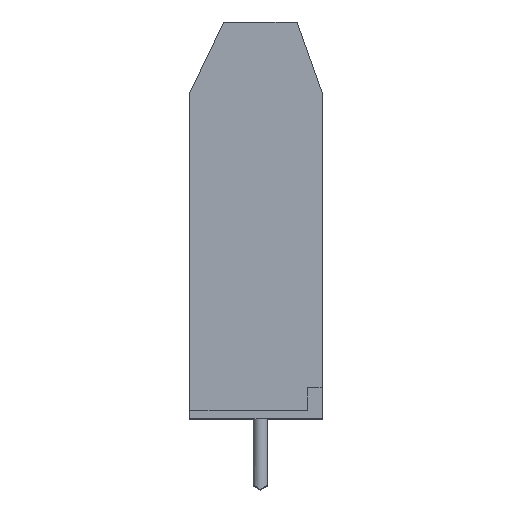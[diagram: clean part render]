
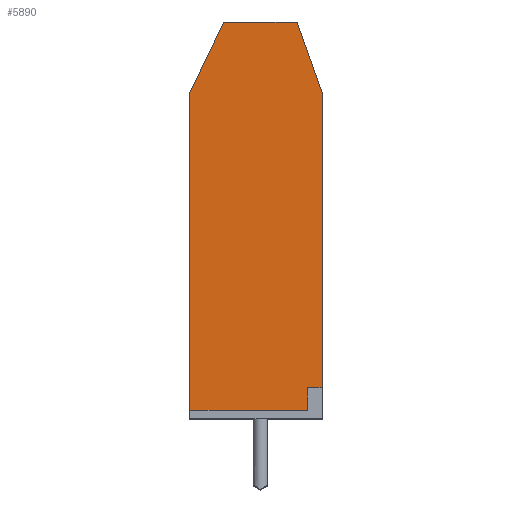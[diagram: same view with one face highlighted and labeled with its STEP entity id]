
A CAD part, top view. The second image highlights one B-rep face of the part: STEP entity #5890.
In plain terms, the highlighted planar face has unit normal (0, 0, 1).
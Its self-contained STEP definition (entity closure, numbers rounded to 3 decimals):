
#508 = EDGE_CURVE ( 'NONE', #10244, #19095, #15183, .T. ) ;
#845 = CARTESIAN_POINT ( 'NONE',  ( 0., 14.3, 0. ) ) ;
#1621 = DIRECTION ( 'NONE',  ( 1., 0., 0. ) ) ;
#2085 = ORIENTED_EDGE ( 'NONE', *, *, #26531, .F. ) ;
#2329 = ORIENTED_EDGE ( 'NONE', *, *, #13244, .T. ) ;
#2501 = VECTOR ( 'NONE', #8156, 1000. ) ;
#2740 = CARTESIAN_POINT ( 'NONE',  ( 0., 22.2, 0. ) ) ;
#2743 = VECTOR ( 'NONE', #13218, 1000. ) ;
#3608 = VECTOR ( 'NONE', #24115, 1000. ) ;
#3643 = LINE ( 'NONE', #5677, #2501 ) ;
#4064 = EDGE_CURVE ( 'NONE', #28738, #29650, #28254, .T. ) ;
#5677 = CARTESIAN_POINT ( 'NONE',  ( -9., 22.2, 0. ) ) ;
#5890 = ADVANCED_FACE ( 'NONE', ( #26576 ), #8109, .F. ) ;
#8109 = PLANE ( 'NONE',  #11046 ) ;
#8156 = DIRECTION ( 'NONE',  ( -0.432, -0.902, 0. ) ) ;
#8413 = ORIENTED_EDGE ( 'NONE', *, *, #508, .T. ) ;
#8508 = ORIENTED_EDGE ( 'NONE', *, *, #20356, .T. ) ;
#9116 = CARTESIAN_POINT ( 'NONE',  ( -9., 0.567, 0. ) ) ;
#9536 = CARTESIAN_POINT ( 'NONE',  ( -9., 14.3, 0. ) ) ;
#9847 = EDGE_CURVE ( 'NONE', #11814, #12744, #31291, .T. ) ;
#9988 = EDGE_LOOP ( 'NONE', ( #2085, #8508, #10476, #2329, #8413, #23670, #22947, #22458 ) ) ;
#10244 = VERTEX_POINT ( 'NONE', #21659 ) ;
#10476 = ORIENTED_EDGE ( 'NONE', *, *, #9847, .T. ) ;
#11046 = AXIS2_PLACEMENT_3D ( 'NONE', #845, #27381, #20046 ) ;
#11785 = VECTOR ( 'NONE', #14571, 1000. ) ;
#11814 = VERTEX_POINT ( 'NONE', #13916 ) ;
#12392 = CARTESIAN_POINT ( 'NONE',  ( -1.7, 27., 0. ) ) ;
#12744 = VERTEX_POINT ( 'NONE', #30028 ) ;
#13218 = DIRECTION ( 'NONE',  ( 1., 0., 0. ) ) ;
#13244 = EDGE_CURVE ( 'NONE', #12744, #10244, #23222, .T. ) ;
#13422 = CARTESIAN_POINT ( 'NONE',  ( 0., 2.1, 0. ) ) ;
#13916 = CARTESIAN_POINT ( 'NONE',  ( 0., 2.1, 0. ) ) ;
#14228 = VECTOR ( 'NONE', #24126, 1000. ) ;
#14571 = DIRECTION ( 'NONE',  ( 0., -1., 0. ) ) ;
#14936 = DIRECTION ( 'NONE',  ( -0.334, 0.943, 0. ) ) ;
#15183 = LINE ( 'NONE', #27994, #19345 ) ;
#15641 = LINE ( 'NONE', #13422, #2743 ) ;
#16491 = CARTESIAN_POINT ( 'NONE',  ( -9., 22.2, 0. ) ) ;
#16999 = CARTESIAN_POINT ( 'NONE',  ( -0.989, 2.1, 0. ) ) ;
#17629 = EDGE_CURVE ( 'NONE', #19095, #28738, #3643, .T. ) ;
#18224 = LINE ( 'NONE', #16999, #11785 ) ;
#18596 = CARTESIAN_POINT ( 'NONE',  ( 0., 0.567, 0. ) ) ;
#19095 = VERTEX_POINT ( 'NONE', #29155 ) ;
#19165 = EDGE_CURVE ( 'NONE', #29650, #26939, #19869, .T. ) ;
#19345 = VECTOR ( 'NONE', #20956, 1000. ) ;
#19492 = VERTEX_POINT ( 'NONE', #22164 ) ;
#19869 = LINE ( 'NONE', #18596, #25555 ) ;
#20046 = DIRECTION ( 'NONE',  ( -1., 0., 0. ) ) ;
#20356 = EDGE_CURVE ( 'NONE', #19492, #11814, #15641, .T. ) ;
#20956 = DIRECTION ( 'NONE',  ( -1., 0., 0. ) ) ;
#21659 = CARTESIAN_POINT ( 'NONE',  ( -1.7, 27., 0. ) ) ;
#22164 = CARTESIAN_POINT ( 'NONE',  ( -0.989, 2.1, 0. ) ) ;
#22458 = ORIENTED_EDGE ( 'NONE', *, *, #19165, .T. ) ;
#22947 = ORIENTED_EDGE ( 'NONE', *, *, #4064, .T. ) ;
#23222 = LINE ( 'NONE', #12392, #25519 ) ;
#23670 = ORIENTED_EDGE ( 'NONE', *, *, #17629, .T. ) ;
#24115 = DIRECTION ( 'NONE',  ( 0., 1., 0. ) ) ;
#24126 = DIRECTION ( 'NONE',  ( 0., -1., 0. ) ) ;
#25519 = VECTOR ( 'NONE', #14936, 1000. ) ;
#25555 = VECTOR ( 'NONE', #1621, 1000. ) ;
#26516 = CARTESIAN_POINT ( 'NONE',  ( -0.989, 0.567, 0. ) ) ;
#26531 = EDGE_CURVE ( 'NONE', #19492, #26939, #18224, .T. ) ;
#26576 = FACE_OUTER_BOUND ( 'NONE', #9988, .T. ) ;
#26939 = VERTEX_POINT ( 'NONE', #26516 ) ;
#27381 = DIRECTION ( 'NONE',  ( 0., 0., -1. ) ) ;
#27994 = CARTESIAN_POINT ( 'NONE',  ( -6.7, 27., 0. ) ) ;
#28254 = LINE ( 'NONE', #9536, #14228 ) ;
#28738 = VERTEX_POINT ( 'NONE', #16491 ) ;
#29155 = CARTESIAN_POINT ( 'NONE',  ( -6.7, 27., 0. ) ) ;
#29650 = VERTEX_POINT ( 'NONE', #9116 ) ;
#30028 = CARTESIAN_POINT ( 'NONE',  ( 0., 22.2, 0. ) ) ;
#31291 = LINE ( 'NONE', #2740, #3608 ) ;
